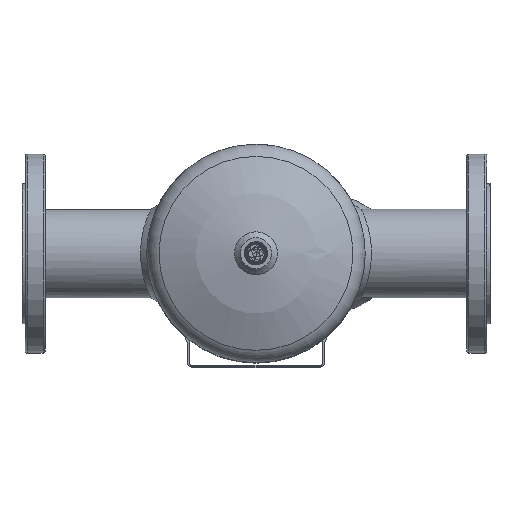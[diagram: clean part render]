
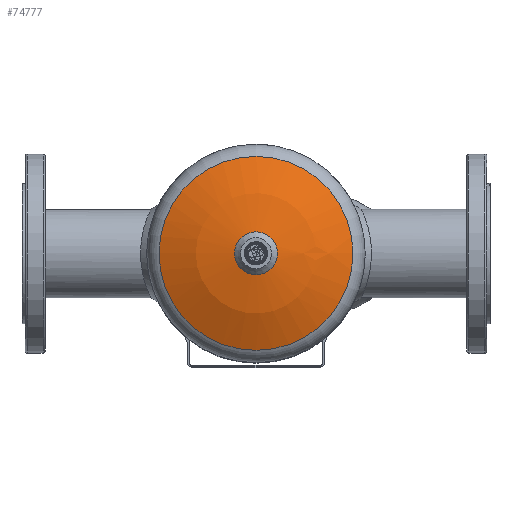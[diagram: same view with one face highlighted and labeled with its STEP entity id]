
A CAD part, top view. The second image highlights one B-rep face of the part: STEP entity #74777.
In plain terms, the highlighted spherical face has radius 219.1 mm.
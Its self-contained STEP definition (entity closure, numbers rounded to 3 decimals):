
#29192=ORIENTED_EDGE('',*,*,#36805,.T.);
#29193=ORIENTED_EDGE('',*,*,#36816,.T.);
#36805=EDGE_CURVE('',#41933,#41933,#42236,.T.);
#36816=EDGE_CURVE('',#41944,#41944,#42243,.T.);
#41933=VERTEX_POINT('',#158051);
#41944=VERTEX_POINT('',#158077);
#42236=CIRCLE('',#77342,21.614);
#42243=CIRCLE('',#77353,97.378);
#46029=EDGE_LOOP('',(#29192));
#46030=EDGE_LOOP('',(#29193));
#49844=FACE_BOUND('',#46029,.T.);
#49845=FACE_BOUND('',#46030,.T.);
#49894=SPHERICAL_SURFACE('',#77352,219.1);
#74777=ADVANCED_FACE('',(#49844,#49845),#49894,.T.);
#77342=AXIS2_PLACEMENT_3D('',#158050,#86254,#86255);
#77352=AXIS2_PLACEMENT_3D('',#158075,#86278,#86279);
#77353=AXIS2_PLACEMENT_3D('',#158076,#86280,#86281);
#86254=DIRECTION('',(0.,0.,-1.));
#86255=DIRECTION('',(0.,1.,0.));
#86278=DIRECTION('',(0.,0.,1.));
#86279=DIRECTION('',(1.,0.,0.));
#86280=DIRECTION('',(0.,0.,1.));
#86281=DIRECTION('',(1.,0.,0.));
#158050=CARTESIAN_POINT('',(0.,0.,129.931));
#158051=CARTESIAN_POINT('',(0.,21.614,129.931));
#158075=CARTESIAN_POINT('',(0.,0.,-88.1));
#158076=CARTESIAN_POINT('',(0.,0.,108.171));
#158077=CARTESIAN_POINT('',(97.378,0.,108.171));
